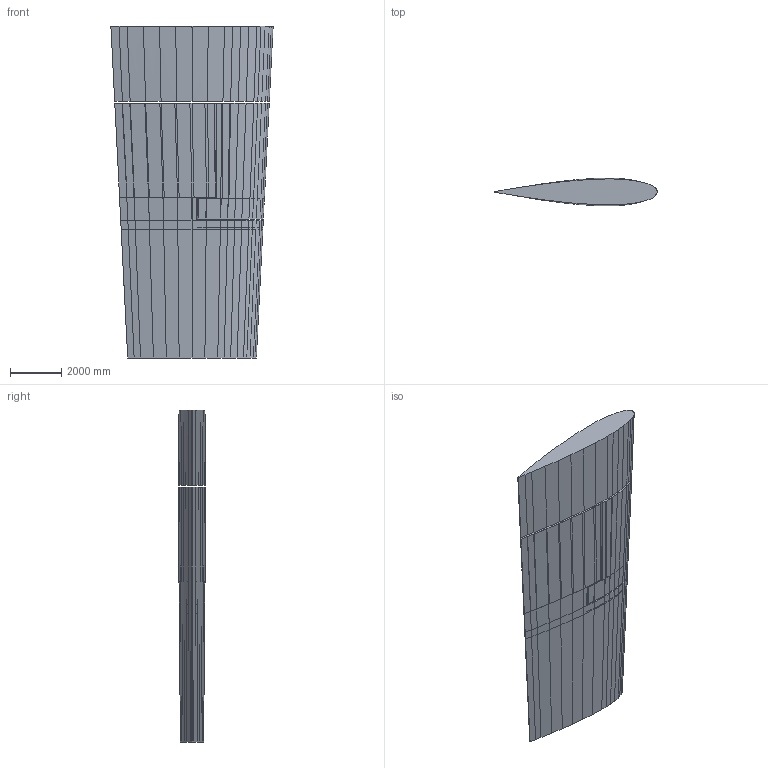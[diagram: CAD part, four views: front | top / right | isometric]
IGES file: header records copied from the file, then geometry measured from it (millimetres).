
Global section: file name: H:\User\Steinwand\Projekte\KRISO\Ruder\Zeichnungen\Ruderentwurf-KRISO\KRISO-Ruder.igs; native system: Rhinoceros ( Jan  4 2002 ); preprocessor: Trout Lake IGES 012 Jan  4 2002; date: 050222.003050; units: millimetre
Bounding box: 6303.32 x 1080.31 x 12900 mm (x, y, z)
Surface area: 195620397.6 mm2 (no closed solid volume)
Topology: 0 solids, 0 shells, 242 faces, 1778 edges, 1790 vertices
Faces by surface type: bspline 242
